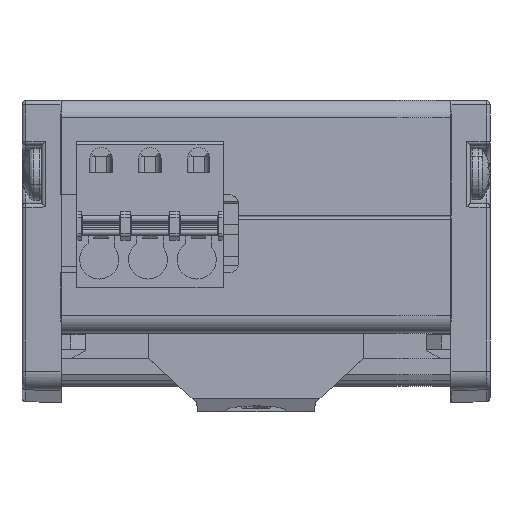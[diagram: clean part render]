
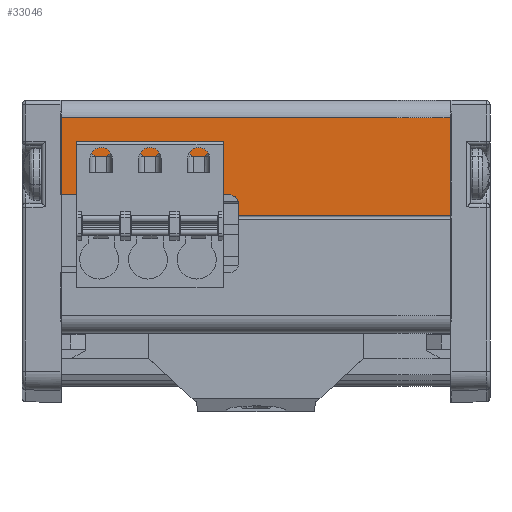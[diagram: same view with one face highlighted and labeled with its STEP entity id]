
A CAD part, front view. The second image highlights one B-rep face of the part: STEP entity #33046.
In plain terms, the highlighted planar face has unit normal (0, -1, 0).
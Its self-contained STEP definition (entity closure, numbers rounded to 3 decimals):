
#1305 = ORIENTED_EDGE ( 'NONE', *, *, #44581, .T. ) ;
#2045 = CARTESIAN_POINT ( 'NONE',  ( 110., -1.5, -0.8 ) ) ;
#4140 = VECTOR ( 'NONE', #38724, 1000. ) ;
#4371 = EDGE_CURVE ( 'NONE', #46029, #21643, #4694, .T. ) ;
#4694 = LINE ( 'NONE', #21747, #4140 ) ;
#5920 = AXIS2_PLACEMENT_3D ( 'NONE', #61572, #65672, #9337 ) ;
#7079 = CARTESIAN_POINT ( 'NONE',  ( 110., -1.5, -0.8 ) ) ;
#7151 = VECTOR ( 'NONE', #51452, 1000. ) ;
#9337 = DIRECTION ( 'NONE',  ( 0., 0., 1. ) ) ;
#11876 = EDGE_CURVE ( 'NONE', #70249, #37448, #16623, .T. ) ;
#12797 = EDGE_CURVE ( 'NONE', #43062, #16762, #72596, .T. ) ;
#15161 = VECTOR ( 'NONE', #52220, 1000. ) ;
#16187 = DIRECTION ( 'NONE',  ( 0., -1., 0. ) ) ;
#16418 = PLANE ( 'NONE',  #5920 ) ;
#16623 = LINE ( 'NONE', #72969, #53205 ) ;
#16762 = VERTEX_POINT ( 'NONE', #29329 ) ;
#21465 = CARTESIAN_POINT ( 'NONE',  ( 88.24, -1.5, -9.7 ) ) ;
#21643 = VERTEX_POINT ( 'NONE', #29348 ) ;
#21747 = CARTESIAN_POINT ( 'NONE',  ( 110., -1.5, -10.8 ) ) ;
#22166 = DIRECTION ( 'NONE',  ( 0., 0., -1. ) ) ;
#22354 = ORIENTED_EDGE ( 'NONE', *, *, #72590, .F. ) ;
#23191 = LINE ( 'NONE', #2045, #62062 ) ;
#23554 = VERTEX_POINT ( 'NONE', #30814 ) ;
#24081 = LINE ( 'NONE', #30309, #15161 ) ;
#24590 = VECTOR ( 'NONE', #41135, 1000. ) ;
#28820 = LINE ( 'NONE', #40287, #7151 ) ;
#29329 = CARTESIAN_POINT ( 'NONE',  ( 87.24, -1.5, -8.7 ) ) ;
#29348 = CARTESIAN_POINT ( 'NONE',  ( 88.24, -1.5, -10.8 ) ) ;
#30309 = CARTESIAN_POINT ( 'NONE',  ( 88.24, -1.5, -15.7 ) ) ;
#30814 = CARTESIAN_POINT ( 'NONE',  ( 110., -1.5, -0.8 ) ) ;
#33046 = ADVANCED_FACE ( 'NONE', ( #67158 ), #16418, .F. ) ;
#35209 = EDGE_LOOP ( 'NONE', ( #41116, #61974, #40503, #22354, #1305, #35606, #67883 ) ) ;
#35606 = ORIENTED_EDGE ( 'NONE', *, *, #11876, .T. ) ;
#35702 = DIRECTION ( 'NONE',  ( -1., 0., 0. ) ) ;
#37448 = VERTEX_POINT ( 'NONE', #72015 ) ;
#38724 = DIRECTION ( 'NONE',  ( -1., 0., 0. ) ) ;
#40287 = CARTESIAN_POINT ( 'NONE',  ( 87.24, -1.5, -8.7 ) ) ;
#40503 = ORIENTED_EDGE ( 'NONE', *, *, #4371, .F. ) ;
#41116 = ORIENTED_EDGE ( 'NONE', *, *, #12797, .F. ) ;
#41135 = DIRECTION ( 'NONE',  ( 0., 0., -1. ) ) ;
#42058 = EDGE_CURVE ( 'NONE', #21643, #43062, #24081, .T. ) ;
#43062 = VERTEX_POINT ( 'NONE', #21465 ) ;
#44581 = EDGE_CURVE ( 'NONE', #23554, #70249, #23191, .T. ) ;
#46029 = VERTEX_POINT ( 'NONE', #52480 ) ;
#50971 = CARTESIAN_POINT ( 'NONE',  ( 87.24, -1.5, -9.7 ) ) ;
#51452 = DIRECTION ( 'NONE',  ( -1., 0., 0. ) ) ;
#52220 = DIRECTION ( 'NONE',  ( 0., 0., 1. ) ) ;
#52480 = CARTESIAN_POINT ( 'NONE',  ( 110., -1.5, -10.8 ) ) ;
#53205 = VECTOR ( 'NONE', #22166, 1000. ) ;
#53578 = AXIS2_PLACEMENT_3D ( 'NONE', #50971, #16187, #61358 ) ;
#59111 = EDGE_CURVE ( 'NONE', #16762, #37448, #28820, .T. ) ;
#61358 = DIRECTION ( 'NONE',  ( 0., 0., -1. ) ) ;
#61572 = CARTESIAN_POINT ( 'NONE',  ( 110., -1.5, -0.8 ) ) ;
#61974 = ORIENTED_EDGE ( 'NONE', *, *, #42058, .F. ) ;
#62062 = VECTOR ( 'NONE', #35702, 1000. ) ;
#62277 = LINE ( 'NONE', #7079, #24590 ) ;
#64449 = CARTESIAN_POINT ( 'NONE',  ( 70., -1.5, -0.8 ) ) ;
#65672 = DIRECTION ( 'NONE',  ( 0., 1., 0. ) ) ;
#67158 = FACE_OUTER_BOUND ( 'NONE', #35209, .T. ) ;
#67883 = ORIENTED_EDGE ( 'NONE', *, *, #59111, .F. ) ;
#70249 = VERTEX_POINT ( 'NONE', #64449 ) ;
#72015 = CARTESIAN_POINT ( 'NONE',  ( 70., -1.5, -8.7 ) ) ;
#72590 = EDGE_CURVE ( 'NONE', #23554, #46029, #62277, .T. ) ;
#72596 = CIRCLE ( 'NONE', #53578, 1. ) ;
#72969 = CARTESIAN_POINT ( 'NONE',  ( 70., -1.5, -0.8 ) ) ;
